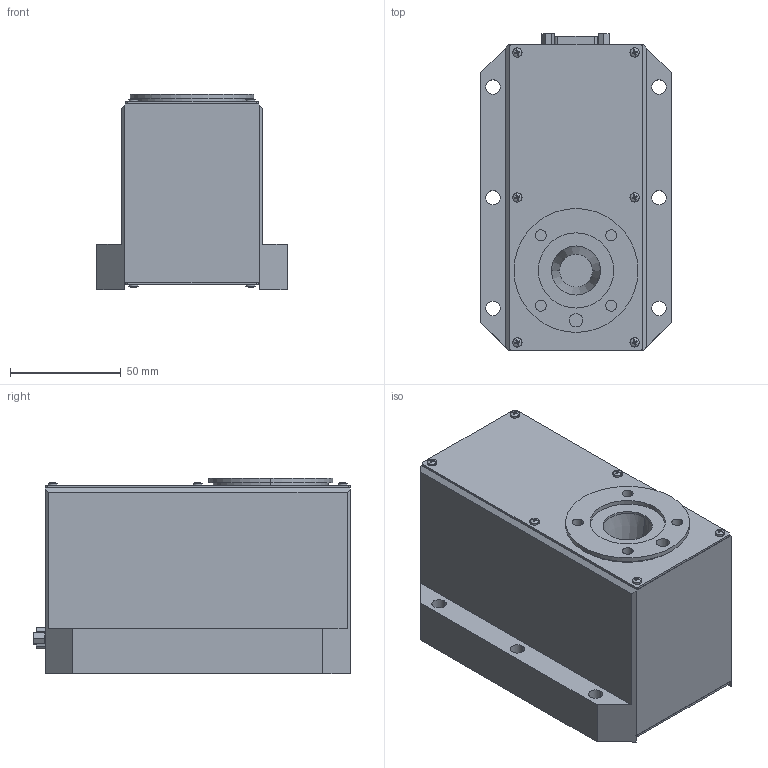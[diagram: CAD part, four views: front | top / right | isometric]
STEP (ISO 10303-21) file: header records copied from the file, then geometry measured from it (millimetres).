
FILE_DESCRIPTION (( 'STEP AP203' ), '1' );
FILE_NAME ('Rundschalttisch ZR20 - 260300 0000.STEP', '2010-03-12T07:41:38', ( 'HI' ), ( '' ), 'SwSTEP 2.0', 'SolidWorks 2009', '' );
FILE_SCHEMA (( 'CONFIG_CONTROL_DESIGN' ));
Length unit declared in the file: millimetre
Products named in the file (1): Rundschalttisch ZR20 - 260300 0000
Bounding box: 86 x 143.2 x 88.4 mm (x, y, z)
Volume: 335635 mm3; surface area: 131935.1 mm2
Topology: 18 solids, 18 shells, 874 faces, 2005 edges, 1170 vertices
Faces by surface type: plane 490, cylinder 254, cone 58, torus 48, sphere 24
Entity records: 24258 total; most frequent: DIRECTION 4521, CARTESIAN_POINT 4056, ORIENTED_EDGE 3906, EDGE_CURVE 1953, AXIS2_PLACEMENT_3D 1695, VERTEX_POINT 1170, LINE 1131, VECTOR 1131
